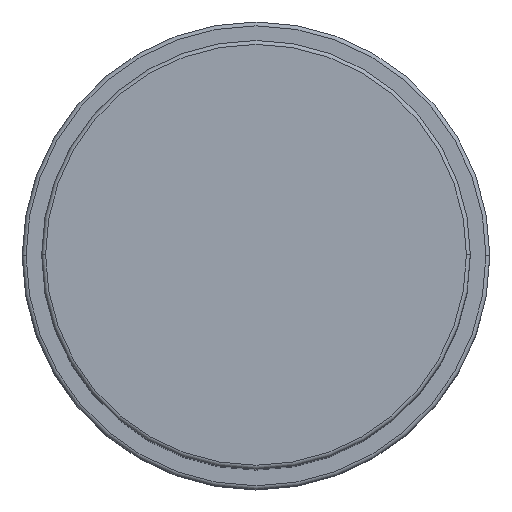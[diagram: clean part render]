
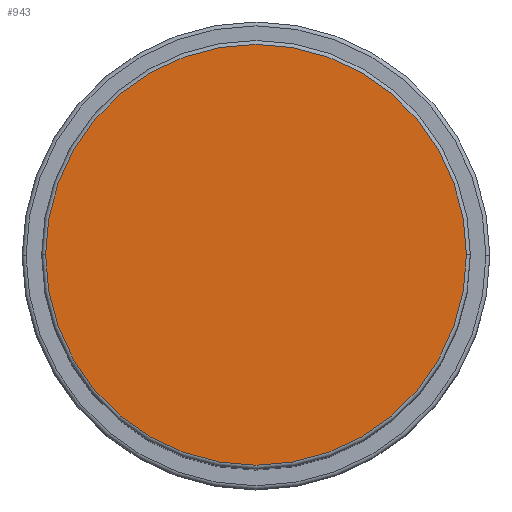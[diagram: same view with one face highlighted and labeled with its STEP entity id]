
A CAD part, top view. The second image highlights one B-rep face of the part: STEP entity #943.
In plain terms, the highlighted planar face has unit normal (0, 0, 1).
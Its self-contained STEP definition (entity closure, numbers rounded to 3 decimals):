
#58 = DIRECTION ( 'NONE',  ( 0., 0., 1. ) ) ;
#79 = DIRECTION ( 'NONE',  ( 0., 0., 1. ) ) ;
#85 = ORIENTED_EDGE ( 'NONE', *, *, #441, .T. ) ;
#170 = CARTESIAN_POINT ( 'NONE',  ( 0., 0., 101. ) ) ;
#309 = ORIENTED_EDGE ( 'NONE', *, *, #1051, .T. ) ;
#319 = CIRCLE ( 'NONE', #348, 27. ) ;
#348 = AXIS2_PLACEMENT_3D ( 'NONE', #170, #1438, #1073 ) ;
#441 = EDGE_CURVE ( 'NONE', #598, #1234, #319, .T. ) ;
#575 = PLANE ( 'NONE',  #1164 ) ;
#598 = VERTEX_POINT ( 'NONE', #841 ) ;
#719 = CARTESIAN_POINT ( 'NONE',  ( 0., 0., 101. ) ) ;
#835 = CARTESIAN_POINT ( 'NONE',  ( 0., 0., 101. ) ) ;
#841 = CARTESIAN_POINT ( 'NONE',  ( 27., 0., 101. ) ) ;
#943 = ADVANCED_FACE ( 'NONE', ( #1036 ), #575, .T. ) ;
#964 = DIRECTION ( 'NONE',  ( 1., 0., 0. ) ) ;
#1036 = FACE_OUTER_BOUND ( 'NONE', #1385, .T. ) ;
#1051 = EDGE_CURVE ( 'NONE', #1234, #598, #1601, .T. ) ;
#1073 = DIRECTION ( 'NONE',  ( 1., 0., 0. ) ) ;
#1164 = AXIS2_PLACEMENT_3D ( 'NONE', #835, #58, #964 ) ;
#1216 = AXIS2_PLACEMENT_3D ( 'NONE', #719, #79, #1345 ) ;
#1234 = VERTEX_POINT ( 'NONE', #1374 ) ;
#1345 = DIRECTION ( 'NONE',  ( 1., 0., 0. ) ) ;
#1374 = CARTESIAN_POINT ( 'NONE',  ( -27., 0., 101. ) ) ;
#1385 = EDGE_LOOP ( 'NONE', ( #85, #309 ) ) ;
#1438 = DIRECTION ( 'NONE',  ( 0., 0., 1. ) ) ;
#1601 = CIRCLE ( 'NONE', #1216, 27. ) ;
